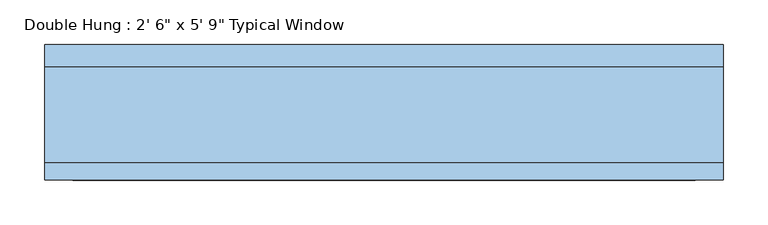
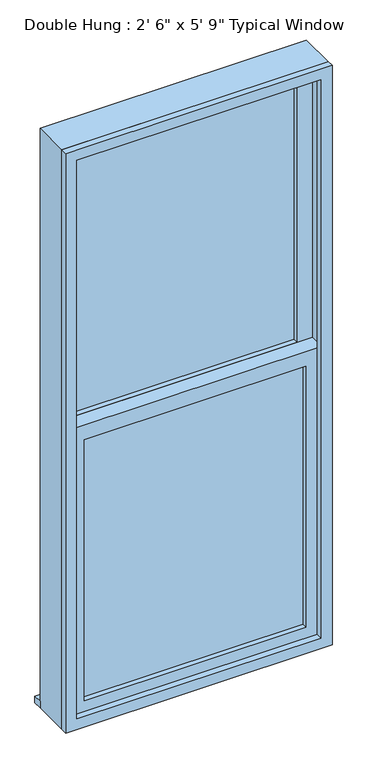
"""IFC4 building model written with IfcOpenShell, lengths in millimetres: window geometry."""

import ifcopenshell
import ifcopenshell.guid

model = None  # the IFC model being written
_history = None  # IfcOwnerHistory: only IFC2X3 demands one
_inside = {}  # id of a spatial element -> (the spatial element, [elements in it])
_under = {}  # id of a project, library or spatial element -> (it, [spatial elements below it])
_declared = {}  # id of a project -> (the project, [libraries it declares])
_typed = {}  # id of a type object -> (the type object, [elements of that type])
_made_of = {}  # id of a material, layer set ... -> (it, [elements and type objects made of it])


def new_model(schema):
    """Start an empty IFC model of exactly this schema.

    Asked for "IFC4X3", IfcOpenShell would pick the latest addendum, in which some entities
    have other attributes; the version numbers below select the first issue.
    IFC2X3 requires an IfcOwnerHistory on every rooted entity: one is made here for all.
    """
    global model, _history
    if schema == "IFC4X3":
        model = ifcopenshell.file(schema_version=(4, 3, 0, 0))
    else:
        model = ifcopenshell.file(schema=schema)
    _inside.clear()
    _under.clear()
    _declared.clear()
    _typed.clear()
    _made_of.clear()
    _history = None
    if model.schema == "IFC2X3":
        org = make("IfcOrganization", Name="unknown")
        user = make(
            "IfcPersonAndOrganization",
            ThePerson=make("IfcPerson", FamilyName="unknown"),
            TheOrganization=org,
        )
        app = make(
            "IfcApplication",
            ApplicationDeveloper=org,
            Version="unknown",
            ApplicationFullName="unknown",
            ApplicationIdentifier="unknown",
        )
        _history = make(
            "IfcOwnerHistory",
            OwningUser=user,
            OwningApplication=app,
            ChangeAction="ADDED",
            CreationDate=0,
        )
    return model


def make(cls, **values):
    """One entity of the class cls with the attributes given. An attribute that is None is left unset."""
    return model.create_entity(
        cls, **{name: value for name, value in values.items() if value is not None}
    )


def rooted(cls, **values):
    """An entity with a GlobalId (a new one), such as an element, a storey or a relation."""
    return make(cls, GlobalId=ifcopenshell.guid.new(), OwnerHistory=_history, **values)


def si_unit(unit_type, name, prefix=None):
    """IfcSIUnit, for example si_unit("LENGTHUNIT", "METRE", prefix="MILLI")."""
    return make("IfcSIUnit", UnitType=unit_type, Prefix=prefix, Name=name)


def assignment(units):
    """IfcUnitAssignment: the units of a project."""
    return None if units is None else make("IfcUnitAssignment", Units=units)


def point(xyz):
    """IfcCartesianPoint."""
    return None if xyz is None else make("IfcCartesianPoint", Coordinates=xyz)


def direction(xyz):
    """IfcDirection."""
    return None if xyz is None else make("IfcDirection", DirectionRatios=xyz)


def frame(location, z_axis=None, x_axis=None):
    """IfcAxis2Placement3D, a coordinate frame: its origin and axes. An axis left out is left unset."""
    return make(
        "IfcAxis2Placement3D",
        Location=point(location),
        Axis=direction(z_axis),
        RefDirection=direction(x_axis),
    )


def origin():
    """The frame at (0, 0, 0) with its axes left unset."""
    return frame((0.0, 0.0, 0.0))


def place(relative_to, where):
    """IfcLocalPlacement: puts the frame where relative to a parent placement (None: the world)."""
    return make(
        "IfcLocalPlacement", PlacementRelTo=relative_to, RelativePlacement=where
    )


def context(
    kind, dimensions, precision=None, world=None, true_north=None, identifier=None
):
    """IfcGeometricRepresentationContext, for example the 3D "Model" context."""
    return make(
        "IfcGeometricRepresentationContext",
        ContextIdentifier=identifier,
        ContextType=kind,
        CoordinateSpaceDimension=dimensions,
        Precision=precision,
        WorldCoordinateSystem=world,
        TrueNorth=true_north,
    )


def project(units=None, contexts=None):
    """IfcProject with its units and contexts."""
    return rooted(
        "IfcProject",
        Name="project",
        RepresentationContexts=contexts,
        UnitsInContext=assignment(units),
    )


def spatial(cls, under=None, at=None, **own):
    """A site, building, storey or space (cls), placed at a placement, below another one or the project."""
    s = rooted(cls, ObjectPlacement=at, **own)
    if under is not None:
        _under.setdefault(under.id(), (under, []))[1].append(s)
    return s


def polyline(points):
    """IfcPolyline through the points."""
    return make("IfcPolyline", Points=[point(p) for p in points])


def outline(outer, holes=None, kind="AREA"):
    """IfcArbitraryClosedProfileDef: a profile drawn as a closed curve; with holes, ...WithVoids."""
    if holes is None:
        return make("IfcArbitraryClosedProfileDef", ProfileType=kind, OuterCurve=outer)
    return make(
        "IfcArbitraryProfileDefWithVoids",
        ProfileType=kind,
        OuterCurve=outer,
        InnerCurves=holes,
    )


def extrude(swept, where, along, depth):
    """IfcExtrudedAreaSolid: the profile swept, set in the frame where, extruded along a direction by depth."""
    return make(
        "IfcExtrudedAreaSolid",
        SweptArea=swept,
        Position=where,
        ExtrudedDirection=direction(along),
        Depth=depth,
    )


def shape(context_of_items, identifier, shape_type, items):
    """IfcShapeRepresentation: the items that make up one representation, for example the "Body"."""
    return make(
        "IfcShapeRepresentation",
        ContextOfItems=context_of_items,
        RepresentationIdentifier=identifier,
        RepresentationType=shape_type,
        Items=items,
    )


def source(mapping_origin, context_of_items, identifier, shape_type, items):
    """IfcRepresentationMap: a shape defined once, which mapped items show again and again."""
    return make(
        "IfcRepresentationMap",
        MappingOrigin=mapping_origin,
        MappedRepresentation=shape(context_of_items, identifier, shape_type, items),
    )


def transform(
    local_origin,
    x_axis=None,
    y_axis=None,
    z_axis=None,
    scale=None,
    scale2=None,
    scale3=None,
    uniform=True,
):
    """IfcCartesianTransformationOperator3D, or its non-uniform kind. x_axis, y_axis, z_axis: its Axis1, 2, 3."""
    if uniform:
        return make(
            "IfcCartesianTransformationOperator3D",
            Axis1=direction(x_axis),
            Axis2=direction(y_axis),
            LocalOrigin=point(local_origin),
            Scale=scale,
            Axis3=direction(z_axis),
        )
    return make(
        "IfcCartesianTransformationOperator3DnonUniform",
        Axis1=direction(x_axis),
        Axis2=direction(y_axis),
        LocalOrigin=point(local_origin),
        Scale=scale,
        Axis3=direction(z_axis),
        Scale2=scale2,
        Scale3=scale3,
    )


def mapped(mapping_source, mapping_target):
    """IfcMappedItem: shows the shape of a source again, moved by a transform."""
    return make(
        "IfcMappedItem", MappingSource=mapping_source, MappingTarget=mapping_target
    )


def made_of(thing, what):
    """Note that an element or type object is made of a material, layer set ...; save() writes the relation."""
    if what is not None:
        _made_of.setdefault(what.id(), (what, []))[1].append(thing)
    return thing


def element(
    cls,
    number,
    at=None,
    inside=None,
    cuts=None,
    type_object=None,
    material=None,
    context=None,
    identifier="Body",
    shape_type=None,
    held_by="IfcProductDefinitionShape",
    body=None,
    shapes=None,
    **own,
):
    """One element of the class cls, such as IfcWall. Its Tag is "e" and its number.

    at: its placement. inside: the storey or other place that contains it. cuts: it is an
    opening in that element (IfcRelVoidsElement). A single representation is given by context,
    identifier, shape_type and body (its items); several are given by shapes. held_by: the class
    of the entity that holds the representations. save() writes the other relations.
    """
    e = rooted(cls, Tag="e%d" % number, ObjectPlacement=at, **own)
    if body is not None:
        shapes = [shape(context, identifier, shape_type, body)]
    if shapes is not None:
        e.Representation = make(held_by, Representations=shapes)
    if inside is not None:
        _inside.setdefault(inside.id(), (inside, []))[1].append(e)
    if cuts is not None:
        rooted(
            "IfcRelVoidsElement", RelatingBuildingElement=cuts, RelatedOpeningElement=e
        )
    if type_object is not None:
        _typed.setdefault(type_object.id(), (type_object, []))[1].append(e)
    return made_of(e, material)


def aggregate(whole, parts):
    """IfcRelAggregates: a whole, such as a stair, and the parts it consists of."""
    return rooted("IfcRelAggregates", RelatingObject=whole, RelatedObjects=parts)


def save(model, path):
    """Write the relations noted so far, then the file.

    IfcRelAggregates (storeys below a building ...), IfcRelContainedInSpatialStructure (elements
    in a storey), IfcRelDefinesByType, IfcRelAssociatesMaterial and IfcRelDeclares: one each for
    every whole, place, type object, material and project.
    """
    for whole, parts in _under.values():
        aggregate(whole, parts)
    for where, things in _inside.values():
        rooted(
            "IfcRelContainedInSpatialStructure",
            RelatedElements=things,
            RelatingStructure=where,
        )
    for kind, things in _typed.values():
        rooted("IfcRelDefinesByType", RelatedObjects=things, RelatingType=kind)
    for what, things in _made_of.values():
        rooted("IfcRelAssociatesMaterial", RelatedObjects=things, RelatingMaterial=what)
    for by, libraries in _declared.values():
        rooted("IfcRelDeclares", RelatingContext=by, RelatedDefinitions=libraries)
    model.write(path)


def window_288415e7(model_context):
    return source(origin(), model_context, "Body", "SweptSolid", [
        extrude(outline(polyline([(-317.5, -15.875), (317.5, -15.875), (317.5, -28.575), (-317.5, -28.575), (-317.5, -15.875)])), frame((0.0, 0.0, 673.1), z_axis=(0.0, 0.0, 1.0), x_axis=(1.0, 0.0, 0.0)), (0.0, 0.0, 1.0), 790.575),
        extrude(outline(polyline([(1508.125, -361.95), (628.65, -361.95), (628.65, 361.95), (1508.125, 361.95), (1508.125, -361.95)]), holes=[polyline([(1463.675, -317.5), (1463.675, 317.5), (673.1, 317.5), (673.1, -317.5), (1463.675, -317.5)])]), frame((0.0, -44.45, 0.0), z_axis=(0.0, 1.0, 0.0), x_axis=(0.0, 0.0, 1.0)), (0.0, 0.0, 1.0), 44.45),
        extrude(outline(polyline([(-381.0, 88.9), (381.0, 88.9), (381.0, 63.5), (-381.0, 63.5), (-381.0, 88.9)])), frame((0.0, 0.0, 609.6), z_axis=(0.0, 0.0, 1.0), x_axis=(1.0, 0.0, 0.0)), (0.0, 0.0, 1.0), 19.05),
        extrude(outline(polyline([(317.5, 15.875), (-317.5, 15.875), (-317.5, 28.575), (317.5, 28.575), (317.5, 15.875)])), frame((0.0, 0.0, 1508.125), z_axis=(0.0, 0.0, 1.0), x_axis=(1.0, 0.0, 0.0)), (0.0, 0.0, 1.0), 790.575),
        extrude(outline(polyline([(2343.15, -361.95), (1463.675, -361.95), (1463.675, 361.95), (2343.15, 361.95), (2343.15, -361.95)]), holes=[polyline([(2298.7, -317.5), (2298.7, 317.5), (1508.125, 317.5), (1508.125, -317.5), (2298.7, -317.5)])]), frame((0.0, 0.0, 0.0), z_axis=(0.0, 1.0, 0.0), x_axis=(0.0, 0.0, 1.0)), (0.0, 0.0, 1.0), 44.45),
        extrude(outline(polyline([(2362.2, -381.0), (609.6, -381.0), (609.6, 381.0), (2362.2, 381.0), (2362.2, -381.0)]), holes=[polyline([(2330.45, -349.25), (2330.45, 349.25), (641.35, 349.25), (641.35, -349.25), (2330.45, -349.25)])]), frame((0.0, -63.5, 0.0), z_axis=(0.0, 1.0, 0.0), x_axis=(0.0, 0.0, 1.0)), (0.0, 0.0, 1.0), 19.05),
        extrude(outline(polyline([(2362.2, 381.0), (2362.2, -381.0), (609.6, -381.0), (609.6, 381.0), (2362.2, 381.0)]), holes=[polyline([(2343.15, 361.95), (628.65, 361.95), (628.65, -361.95), (2343.15, -361.95), (2343.15, 361.95)])]), frame((0.0, -44.45, 0.0), z_axis=(0.0, 1.0, 0.0), x_axis=(0.0, 0.0, 1.0)), (0.0, 0.0, 1.0), 107.95),
    ])


if __name__ == "__main__":
    model = new_model("IFC4")
    model_context = context("Model", 3, world=origin())
    ifc_project = project(units=[si_unit("LENGTHUNIT", "METRE", prefix="MILLI")], contexts=[model_context])
    site = spatial("IfcSite", under=ifc_project)
    building = spatial("IfcBuilding", under=site)
    placement = place(None, origin())
    window_shape = window_288415e7(model_context)
    element("IfcWindow", 1, ObjectType="Double Hung : 2' 6\" x 5' 9\" Typical Window", at=placement, inside=building, context=model_context, shape_type="MappedRepresentation", body=[
        mapped(window_shape, transform((0.0, 0.0, 0.0), x_axis=(1.0, 0.0, 0.0), y_axis=(0.0, 1.0, 0.0), z_axis=(0.0, 0.0, 1.0))),
    ])
    save(model, "model.ifc")
